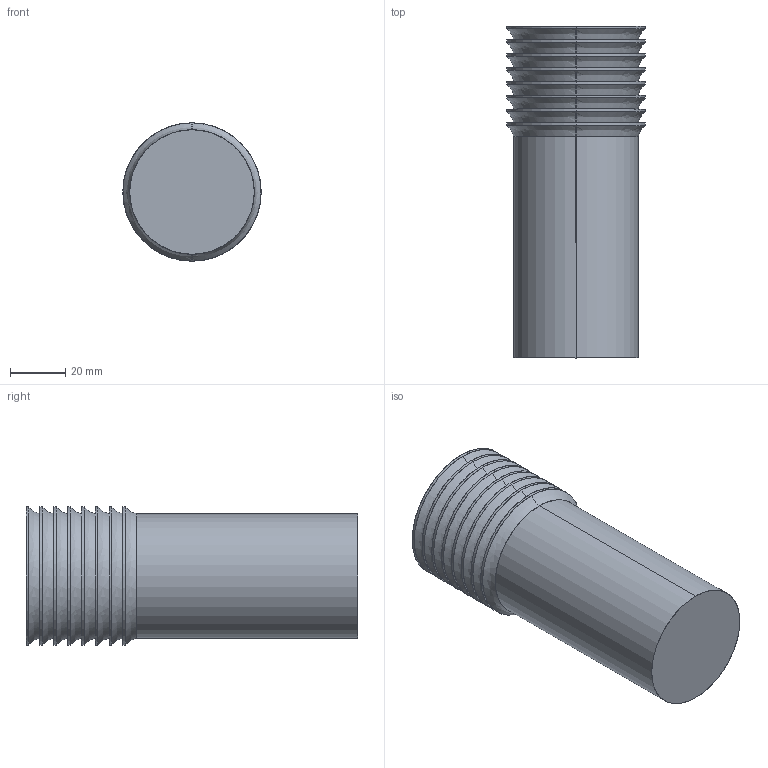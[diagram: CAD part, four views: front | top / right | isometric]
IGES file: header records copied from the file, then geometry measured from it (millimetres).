
Start section: SolidWorks IGES file using analytic representation for surfaces
Global section: file name: C:\Users\adrian\Desktop\AROA\diseño nuevo producto\tecnico\NIYO T0337\T0337.IGS; native system: SolidWorks 2023; preprocessor: SolidWorks 2023; author: adrian; date: 260828.114251; units: millimetre
Bounding box: 50 x 120 x 50 mm (x, y, z)
Surface area: 27648.4 mm2 (no closed solid volume)
Topology: 0 solids, 0 shells, 48 faces, 1424 edges, 1424 vertices
Faces by surface type: bspline 30, revolution 18
